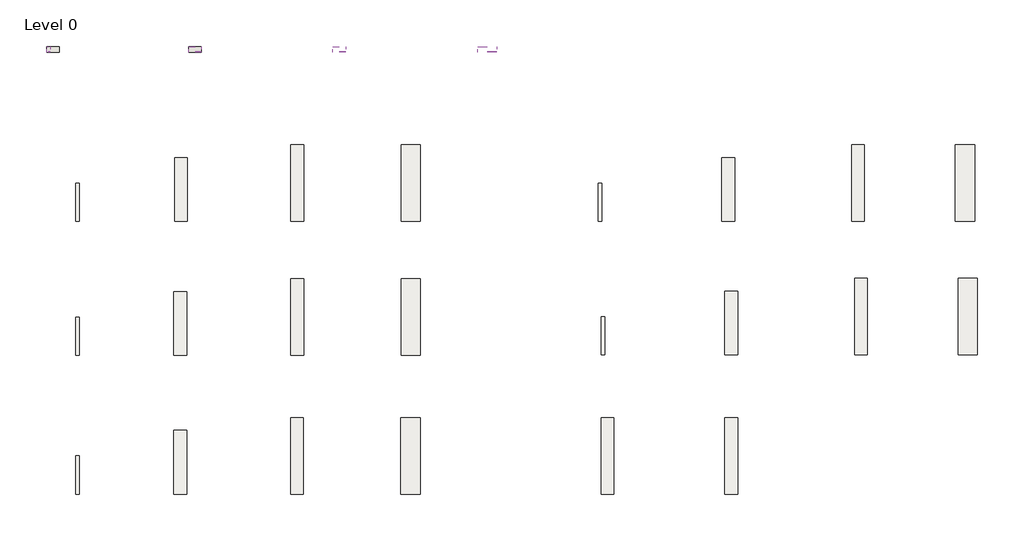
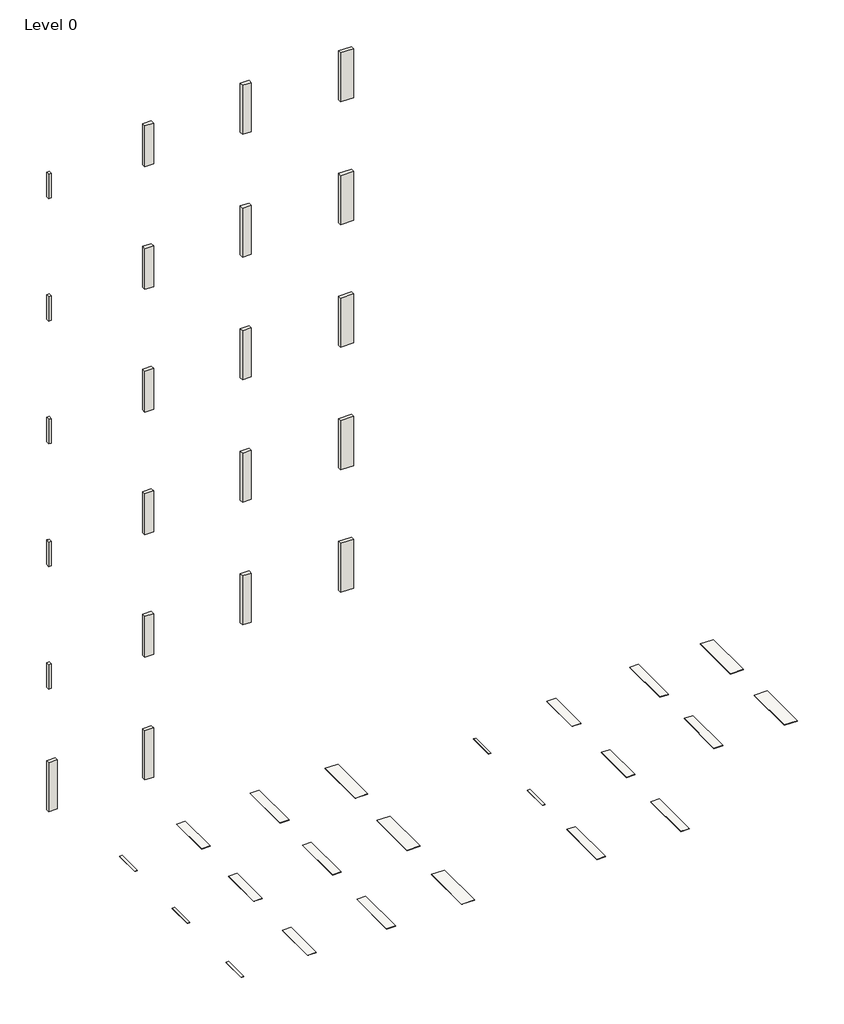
# One storey: 22 slabs, 22 walls.
"""IFC4 building model written with IfcOpenShell, lengths in millimetres."""

import ifcopenshell
import ifcopenshell.guid

model = None  # the IFC model being written
_history = None  # IfcOwnerHistory: only IFC2X3 demands one
_inside = {}  # id of a spatial element -> (the spatial element, [elements in it])
_under = {}  # id of a project, library or spatial element -> (it, [spatial elements below it])
_declared = {}  # id of a project -> (the project, [libraries it declares])
_typed = {}  # id of a type object -> (the type object, [elements of that type])
_made_of = {}  # id of a material, layer set ... -> (it, [elements and type objects made of it])


def new_model(schema):
    """Start an empty IFC model of exactly this schema.

    Asked for "IFC4X3", IfcOpenShell would pick the latest addendum, in which some entities
    have other attributes; the version numbers below select the first issue.
    IFC2X3 requires an IfcOwnerHistory on every rooted entity: one is made here for all.
    """
    global model, _history
    if schema == "IFC4X3":
        model = ifcopenshell.file(schema_version=(4, 3, 0, 0))
    else:
        model = ifcopenshell.file(schema=schema)
    _inside.clear()
    _under.clear()
    _declared.clear()
    _typed.clear()
    _made_of.clear()
    _history = None
    if model.schema == "IFC2X3":
        org = make("IfcOrganization", Name="unknown")
        user = make(
            "IfcPersonAndOrganization",
            ThePerson=make("IfcPerson", FamilyName="unknown"),
            TheOrganization=org,
        )
        app = make(
            "IfcApplication",
            ApplicationDeveloper=org,
            Version="unknown",
            ApplicationFullName="unknown",
            ApplicationIdentifier="unknown",
        )
        _history = make(
            "IfcOwnerHistory",
            OwningUser=user,
            OwningApplication=app,
            ChangeAction="ADDED",
            CreationDate=0,
        )
    return model


def make(cls, **values):
    """One entity of the class cls with the attributes given. An attribute that is None is left unset."""
    return model.create_entity(
        cls, **{name: value for name, value in values.items() if value is not None}
    )


def rooted(cls, **values):
    """An entity with a GlobalId (a new one), such as an element, a storey or a relation."""
    return make(cls, GlobalId=ifcopenshell.guid.new(), OwnerHistory=_history, **values)


def si_unit(unit_type, name, prefix=None):
    """IfcSIUnit, for example si_unit("LENGTHUNIT", "METRE", prefix="MILLI")."""
    return make("IfcSIUnit", UnitType=unit_type, Prefix=prefix, Name=name)


def assignment(units):
    """IfcUnitAssignment: the units of a project."""
    return None if units is None else make("IfcUnitAssignment", Units=units)


def point(xyz):
    """IfcCartesianPoint."""
    return None if xyz is None else make("IfcCartesianPoint", Coordinates=xyz)


def direction(xyz):
    """IfcDirection."""
    return None if xyz is None else make("IfcDirection", DirectionRatios=xyz)


def frame(location, z_axis=None, x_axis=None):
    """IfcAxis2Placement3D, a coordinate frame: its origin and axes. An axis left out is left unset."""
    return make(
        "IfcAxis2Placement3D",
        Location=point(location),
        Axis=direction(z_axis),
        RefDirection=direction(x_axis),
    )


def origin():
    """The frame at (0, 0, 0) with its axes left unset."""
    return frame((0.0, 0.0, 0.0))


def origin_with_axes():
    """The frame at (0, 0, 0) with the z axis (0, 0, 1) and the x axis (1, 0, 0) written out."""
    return frame((0.0, 0.0, 0.0), z_axis=(0.0, 0.0, 1.0), x_axis=(1.0, 0.0, 0.0))


def place(relative_to, where):
    """IfcLocalPlacement: puts the frame where relative to a parent placement (None: the world)."""
    return make(
        "IfcLocalPlacement", PlacementRelTo=relative_to, RelativePlacement=where
    )


def context(
    kind, dimensions, precision=None, world=None, true_north=None, identifier=None
):
    """IfcGeometricRepresentationContext, for example the 3D "Model" context."""
    return make(
        "IfcGeometricRepresentationContext",
        ContextIdentifier=identifier,
        ContextType=kind,
        CoordinateSpaceDimension=dimensions,
        Precision=precision,
        WorldCoordinateSystem=world,
        TrueNorth=true_north,
    )


def project(units=None, contexts=None):
    """IfcProject with its units and contexts."""
    return rooted(
        "IfcProject",
        Name="project",
        RepresentationContexts=contexts,
        UnitsInContext=assignment(units),
    )


def spatial(cls, under=None, at=None, **own):
    """A site, building, storey or space (cls), placed at a placement, below another one or the project."""
    s = rooted(cls, ObjectPlacement=at, **own)
    if under is not None:
        _under.setdefault(under.id(), (under, []))[1].append(s)
    return s


def polyline(points):
    """IfcPolyline through the points."""
    return make("IfcPolyline", Points=[point(p) for p in points])


def outline(outer, holes=None, kind="AREA"):
    """IfcArbitraryClosedProfileDef: a profile drawn as a closed curve; with holes, ...WithVoids."""
    if holes is None:
        return make("IfcArbitraryClosedProfileDef", ProfileType=kind, OuterCurve=outer)
    return make(
        "IfcArbitraryProfileDefWithVoids",
        ProfileType=kind,
        OuterCurve=outer,
        InnerCurves=holes,
    )


def extrude(swept, where, along, depth):
    """IfcExtrudedAreaSolid: the profile swept, set in the frame where, extruded along a direction by depth."""
    return make(
        "IfcExtrudedAreaSolid",
        SweptArea=swept,
        Position=where,
        ExtrudedDirection=direction(along),
        Depth=depth,
    )


def shape(context_of_items, identifier, shape_type, items):
    """IfcShapeRepresentation: the items that make up one representation, for example the "Body"."""
    return make(
        "IfcShapeRepresentation",
        ContextOfItems=context_of_items,
        RepresentationIdentifier=identifier,
        RepresentationType=shape_type,
        Items=items,
    )


def made_of(thing, what):
    """Note that an element or type object is made of a material, layer set ...; save() writes the relation."""
    if what is not None:
        _made_of.setdefault(what.id(), (what, []))[1].append(thing)
    return thing


def element(
    cls,
    number,
    at=None,
    inside=None,
    cuts=None,
    type_object=None,
    material=None,
    context=None,
    identifier="Body",
    shape_type=None,
    held_by="IfcProductDefinitionShape",
    body=None,
    shapes=None,
    **own,
):
    """One element of the class cls, such as IfcWall. Its Tag is "e" and its number.

    at: its placement. inside: the storey or other place that contains it. cuts: it is an
    opening in that element (IfcRelVoidsElement). A single representation is given by context,
    identifier, shape_type and body (its items); several are given by shapes. held_by: the class
    of the entity that holds the representations. save() writes the other relations.
    """
    e = rooted(cls, Tag="e%d" % number, ObjectPlacement=at, **own)
    if body is not None:
        shapes = [shape(context, identifier, shape_type, body)]
    if shapes is not None:
        e.Representation = make(held_by, Representations=shapes)
    if inside is not None:
        _inside.setdefault(inside.id(), (inside, []))[1].append(e)
    if cuts is not None:
        rooted(
            "IfcRelVoidsElement", RelatingBuildingElement=cuts, RelatedOpeningElement=e
        )
    if type_object is not None:
        _typed.setdefault(type_object.id(), (type_object, []))[1].append(e)
    return made_of(e, material)


def aggregate(whole, parts):
    """IfcRelAggregates: a whole, such as a stair, and the parts it consists of."""
    return rooted("IfcRelAggregates", RelatingObject=whole, RelatedObjects=parts)


def save(model, path):
    """Write the relations noted so far, then the file.

    IfcRelAggregates (storeys below a building ...), IfcRelContainedInSpatialStructure (elements
    in a storey), IfcRelDefinesByType, IfcRelAssociatesMaterial and IfcRelDeclares: one each for
    every whole, place, type object, material and project.
    """
    for whole, parts in _under.values():
        aggregate(whole, parts)
    for where, things in _inside.values():
        rooted(
            "IfcRelContainedInSpatialStructure",
            RelatedElements=things,
            RelatingStructure=where,
        )
    for kind, things in _typed.values():
        rooted("IfcRelDefinesByType", RelatedObjects=things, RelatingType=kind)
    for what, things in _made_of.values():
        rooted("IfcRelAssociatesMaterial", RelatedObjects=things, RelatingMaterial=what)
    for by, libraries in _declared.values():
        rooted("IfcRelDeclares", RelatingContext=by, RelatedDefinitions=libraries)
    model.write(path)


model = new_model("IFC4")

# Units and contexts
model_context = context("Model", 3, world=origin())
ifc_project = project(units=[si_unit("LENGTHUNIT", "METRE", prefix="MILLI")], contexts=[model_context])

# Site, building, storey
site = spatial("IfcSite", under=ifc_project)
building = spatial("IfcBuilding", under=site)
storey = spatial("IfcBuildingStorey", under=building, Name="Level 0", Elevation=0.0)

# Slabs
placement = place(None, origin())
element("IfcSlab", 1, ObjectType="Floor_Tiles_Fabula-ROBUR-20X120-Wood-Effect-Tiles-MATT", at=placement, inside=storey, context=model_context, shape_type="SweptSolid", body=[
    extrude(outline(polyline([(9947.1861419, 6639.4623743), (9947.1861419, 5439.4623743), (9747.1861419, 5439.4623743), (9747.1861419, 6639.4623743), (9947.1861419, 6639.4623743)])), frame((0.0, 0.0, -10.0), z_axis=(0.0, 0.0, 1.0), x_axis=(1.0, 0.0, 0.0)), (0.0, 0.0, 1.0), 10.0),
])
element("IfcSlab", 2, ObjectType="Floor_Tiles_Fabula-ROBUR-30X120-Wood-Effect-Tiles-MATT", at=placement, inside=storey, context=model_context, shape_type="SweptSolid", body=[
    extrude(outline(polyline([(11774.3752062, 6639.4623743), (11774.3752062, 5439.4623743), (11474.3752062, 5439.4623743), (11474.3752062, 6639.4623743), (11774.3752062, 6639.4623743)])), frame((0.0, 0.0, -10.0), z_axis=(0.0, 0.0, 1.0), x_axis=(1.0, 0.0, 0.0)), (0.0, 0.0, 1.0), 10.0),
])
element("IfcSlab", 3, ObjectType="Floor_Tiles_Fabula-ROBUR-20X100-CHEVRON-WOOD-EFFECT-TILE", at=placement, inside=storey, context=model_context, shape_type="SweptSolid", body=[
    extrude(outline(polyline([(8124.3752062, 6439.4623743), (8124.3752062, 5439.4623743), (7924.3752062, 5439.4623743), (7924.3752062, 6439.4623743), (8124.3752062, 6439.4623743)])), frame((0.0, 0.0, -10.0), z_axis=(0.0, 0.0, 1.0), x_axis=(1.0, 0.0, 0.0)), (0.0, 0.0, 1.0), 10.0),
])
element("IfcSlab", 4, ObjectType="Floor_Tiles_Fabula-ROBUR-5.7X60-Wood-Effect-listels-MATT", at=placement, inside=storey, context=model_context, shape_type="SweptSolid", body=[
    extrude(outline(polyline([(6431.3752062, 6039.4623743), (6431.3752062, 5439.4623743), (6374.3752062, 5439.4623743), (6374.3752062, 6039.4623743), (6431.3752062, 6039.4623743)])), frame((0.0, 0.0, -10.0), z_axis=(0.0, 0.0, 1.0), x_axis=(1.0, 0.0, 0.0)), (0.0, 0.0, 1.0), 10.0),
])
element("IfcSlab", 5, ObjectType="Floor_Tiles_Fabula-NUCIS-20X120-Wood-Effect-Tiles-MATT", at=placement, inside=storey, context=model_context, shape_type="SweptSolid", body=[
    extrude(outline(polyline([(9947.1861419, 4539.4623743), (9947.1861419, 3339.4623743), (9747.1861419, 3339.4623743), (9747.1861419, 4539.4623743), (9947.1861419, 4539.4623743)])), frame((0.0, 0.0, -10.0), z_axis=(0.0, 0.0, 1.0), x_axis=(1.0, 0.0, 0.0)), (0.0, 0.0, 1.0), 10.0),
])
element("IfcSlab", 6, ObjectType="Floor_Tiles_Fabula-NUCIS-30X120-Wood-Effect-Tiles-MATT", at=placement, inside=storey, context=model_context, shape_type="SweptSolid", body=[
    extrude(outline(polyline([(11774.3752062, 4539.4623743), (11774.3752062, 3339.4623743), (11474.3752062, 3339.4623743), (11474.3752062, 4539.4623743), (11774.3752062, 4539.4623743)])), frame((0.0, 0.0, -10.0), z_axis=(0.0, 0.0, 1.0), x_axis=(1.0, 0.0, 0.0)), (0.0, 0.0, 1.0), 10.0),
])
element("IfcSlab", 7, ObjectType="Floor_Tiles_Fabula-NUCIS-20X100-CHEVRON-WOOD-EFFECT-TILE", at=placement, inside=storey, context=model_context, shape_type="SweptSolid", body=[
    extrude(outline(polyline([(8114.3752062, 4339.4623743), (8114.3752062, 3339.4623743), (7914.3752062, 3339.4623743), (7914.3752062, 4339.4623743), (8114.3752062, 4339.4623743)])), frame((0.0, 0.0, -10.0), z_axis=(0.0, 0.0, 1.0), x_axis=(1.0, 0.0, 0.0)), (0.0, 0.0, 1.0), 10.0),
])
element("IfcSlab", 8, ObjectType="Floor_Tiles_Fabula-NUCIS-5.7X60-Wood-Effect-listels-MATT", at=placement, inside=storey, context=model_context, shape_type="SweptSolid", body=[
    extrude(outline(polyline([(6431.3752062, 3939.4623743), (6431.3752062, 3339.4623743), (6374.3752062, 3339.4623743), (6374.3752062, 3939.4623743), (6431.3752062, 3939.4623743)])), frame((0.0, 0.0, -10.0), z_axis=(0.0, 0.0, 1.0), x_axis=(1.0, 0.0, 0.0)), (0.0, 0.0, 1.0), 10.0),
])
element("IfcSlab", 9, ObjectType="Floor_Tiles_Fabula-FABALIS-20X120-Wood-Effect-Tiles-MATT", at=placement, inside=storey, context=model_context, shape_type="SweptSolid", body=[
    extrude(outline(polyline([(18738.6786085, 6639.4623743), (18738.6786085, 5439.4623743), (18538.6786085, 5439.4623743), (18538.6786085, 6639.4623743), (18738.6786085, 6639.4623743)])), frame((0.0, 0.0, -10.0), z_axis=(0.0, 0.0, 1.0), x_axis=(1.0, 0.0, 0.0)), (0.0, 0.0, 1.0), 10.0),
])
element("IfcSlab", 10, ObjectType="Floor_Tiles_Fabula-FABALIS-30X120-Wood-Effect-Tiles-MATT", at=placement, inside=storey, context=model_context, shape_type="SweptSolid", body=[
    extrude(outline(polyline([(20465.8676728, 6639.4623743), (20465.8676728, 5439.4623743), (20165.8676728, 5439.4623743), (20165.8676728, 6639.4623743), (20465.8676728, 6639.4623743)])), frame((0.0, 0.0, -10.0), z_axis=(0.0, 0.0, 1.0), x_axis=(1.0, 0.0, 0.0)), (0.0, 0.0, 1.0), 10.0),
])
element("IfcSlab", 11, ObjectType="Floor_Tiles_Fabula-FABALIS-20X100-CHEVRON-WOOD-EFFECT-TILE", at=placement, inside=storey, context=model_context, shape_type="SweptSolid", body=[
    extrude(outline(polyline([(16705.8676728, 6439.4623743), (16705.8676728, 5439.4623743), (16505.8676728, 5439.4623743), (16505.8676728, 6439.4623743), (16705.8676728, 6439.4623743)])), frame((0.0, 0.0, -10.0), z_axis=(0.0, 0.0, 1.0), x_axis=(1.0, 0.0, 0.0)), (0.0, 0.0, 1.0), 10.0),
])
element("IfcSlab", 12, ObjectType="Floor_Tiles_Fabula-FABALIS-5.7X60-Wood-Effect-listels-MATT", at=placement, inside=storey, context=model_context, shape_type="SweptSolid", body=[
    extrude(outline(polyline([(14622.8676728, 6039.4623743), (14622.8676728, 5439.4623743), (14565.8676728, 5439.4623743), (14565.8676728, 6039.4623743), (14622.8676728, 6039.4623743)])), frame((0.0, 0.0, -10.0), z_axis=(0.0, 0.0, 1.0), x_axis=(1.0, 0.0, 0.0)), (0.0, 0.0, 1.0), 10.0),
])
element("IfcSlab", 13, ObjectType="Floor_Tiles_Fabula-THECA-20X120-Wood-Effect-Tiles-MATT", at=placement, inside=storey, context=model_context, shape_type="SweptSolid", body=[
    extrude(outline(polyline([(18784.3313073, 4546.5647772), (18784.3313073, 3346.5647772), (18584.3313073, 3346.5647772), (18584.3313073, 4546.5647772), (18784.3313073, 4546.5647772)])), frame((0.0, 0.0, -10.0), z_axis=(0.0, 0.0, 1.0), x_axis=(1.0, 0.0, 0.0)), (0.0, 0.0, 1.0), 10.0),
])
element("IfcSlab", 14, ObjectType="Floor_Tiles_Fabula-THECA-30X120-Wood-Effect-Tiles-MATT", at=placement, inside=storey, context=model_context, shape_type="SweptSolid", body=[
    extrude(outline(polyline([(20511.5203716, 4546.5647772), (20511.5203716, 3346.5647772), (20211.5203716, 3346.5647772), (20211.5203716, 4546.5647772), (20511.5203716, 4546.5647772)])), frame((0.0, 0.0, -10.0), z_axis=(0.0, 0.0, 1.0), x_axis=(1.0, 0.0, 0.0)), (0.0, 0.0, 1.0), 10.0),
])
element("IfcSlab", 15, ObjectType="Floor_Tiles_Fabula-THECA-20X100-CHEVRON-WOOD-EFFECT-TILE", at=placement, inside=storey, context=model_context, shape_type="SweptSolid", body=[
    extrude(outline(polyline([(16751.5203716, 4346.5647772), (16751.5203716, 3346.5647772), (16551.5203716, 3346.5647772), (16551.5203716, 4346.5647772), (16751.5203716, 4346.5647772)])), frame((0.0, 0.0, -10.0), z_axis=(0.0, 0.0, 1.0), x_axis=(1.0, 0.0, 0.0)), (0.0, 0.0, 1.0), 10.0),
])
element("IfcSlab", 16, ObjectType="Floor_Tiles_Fabula-THECA-5.7X60-Wood-Effect-listels-MATT", at=placement, inside=storey, context=model_context, shape_type="SweptSolid", body=[
    extrude(outline(polyline([(14668.5203716, 3946.5647772), (14668.5203716, 3346.5647772), (14611.5203716, 3346.5647772), (14611.5203716, 3946.5647772), (14668.5203716, 3946.5647772)])), frame((0.0, 0.0, -10.0), z_axis=(0.0, 0.0, 1.0), x_axis=(1.0, 0.0, 0.0)), (0.0, 0.0, 1.0), 10.0),
])
element("IfcSlab", 17, ObjectType="Floor_Tiles_Fabula-ULMUS-20X120-Wood-Effect-Tiles-MATT", at=placement, inside=storey, context=model_context, shape_type="SweptSolid", body=[
    extrude(outline(polyline([(9945.4118688, 2363.4367235), (9945.4118688, 1163.4367235), (9745.4118688, 1163.4367235), (9745.4118688, 2363.4367235), (9945.4118688, 2363.4367235)])), frame((0.0, 0.0, -10.0), z_axis=(0.0, 0.0, 1.0), x_axis=(1.0, 0.0, 0.0)), (0.0, 0.0, 1.0), 10.0),
])
element("IfcSlab", 18, ObjectType="Floor_Tiles_Fabula-ULMUS-30X120-Wood-Effect-Tiles-MATT", at=placement, inside=storey, context=model_context, shape_type="SweptSolid", body=[
    extrude(outline(polyline([(11772.6009331, 2363.4367235), (11772.6009331, 1163.4367235), (11472.6009331, 1163.4367235), (11472.6009331, 2363.4367235), (11772.6009331, 2363.4367235)])), frame((0.0, 0.0, -10.0), z_axis=(0.0, 0.0, 1.0), x_axis=(1.0, 0.0, 0.0)), (0.0, 0.0, 1.0), 10.0),
])
element("IfcSlab", 19, ObjectType="Floor_Tiles_Fabula-ULMUS-20X100-CHEVRON-WOOD-EFFECT-TILE", at=placement, inside=storey, context=model_context, shape_type="SweptSolid", body=[
    extrude(outline(polyline([(8112.6009331, 2163.4367235), (8112.6009331, 1163.4367235), (7912.6009331, 1163.4367235), (7912.6009331, 2163.4367235), (8112.6009331, 2163.4367235)])), frame((0.0, 0.0, -10.0), z_axis=(0.0, 0.0, 1.0), x_axis=(1.0, 0.0, 0.0)), (0.0, 0.0, 1.0), 10.0),
])
element("IfcSlab", 20, ObjectType="Floor_Tiles_Fabula-ULMUS-5.7X60-Wood-Effect-listels-MATT", at=placement, inside=storey, context=model_context, shape_type="SweptSolid", body=[
    extrude(outline(polyline([(6429.6009331, 1763.4367235), (6429.6009331, 1163.4367235), (6372.6009331, 1163.4367235), (6372.6009331, 1763.4367235), (6429.6009331, 1763.4367235)])), frame((0.0, 0.0, -10.0), z_axis=(0.0, 0.0, 1.0), x_axis=(1.0, 0.0, 0.0)), (0.0, 0.0, 1.0), 10.0),
])
element("IfcSlab", 21, ObjectType="Floor_Tiles_Fabula-Forest-20X120-Wood-Effect-decorative-Tiles-MATT", at=placement, inside=storey, context=model_context, shape_type="SweptSolid", body=[
    extrude(outline(polyline([(14811.5203716, 2363.4367235), (14811.5203716, 1163.4367235), (14611.5203716, 1163.4367235), (14611.5203716, 2363.4367235), (14811.5203716, 2363.4367235)])), frame((0.0, 0.0, -10.0), z_axis=(0.0, 0.0, 1.0), x_axis=(1.0, 0.0, 0.0)), (0.0, 0.0, 1.0), 10.0),
])
element("IfcSlab", 22, ObjectType="Floor_Tiles_Fabula-Jungle-20X120-Wood-Effect-decorative-Tiles-MATT", at=placement, inside=storey, context=model_context, shape_type="SweptSolid", body=[
    extrude(outline(polyline([(16751.5203716, 2363.4367235), (16751.5203716, 1163.4367235), (16551.5203716, 1163.4367235), (16551.5203716, 2363.4367235), (16751.5203716, 2363.4367235)])), frame((0.0, 0.0, -10.0), z_axis=(0.0, 0.0, 1.0), x_axis=(1.0, 0.0, 0.0)), (0.0, 0.0, 1.0), 10.0),
])

# Walls
element("IfcWall", 23, ObjectType="Wall_Tiles_Fabula-ROBUR-5.7X60-Wood-Effect-listels-MATT", at=placement, inside=storey, context=model_context, shape_type="SweptSolid", body=[
    extrude(outline(polyline([(5974.3752062, 8095.3838631), (5917.3752062, 8095.3838631), (5917.3752062, 8179.3838631), (5974.3752062, 8179.3838631), (5974.3752062, 8095.3838631)])), frame((0.0, 0.0, 15000.0), z_axis=(0.0, 0.0, 1.0), x_axis=(1.0, 0.0, 0.0)), (0.0, 0.0, 1.0), 600.0),
])
element("IfcWall", 24, ObjectType="Wall_Tiles_Fabula-ROBUR-20X100-CHEVRON-WOOD-EFFECT-TILE", at=placement, inside=storey, context=model_context, shape_type="SweptSolid", body=[
    extrude(outline(polyline([(8345.8752062, 8095.3838631), (8145.8752062, 8095.3838631), (8145.8752062, 8179.3838631), (8345.8752062, 8179.3838631), (8345.8752062, 8095.3838631)])), frame((0.0, 0.0, 15000.0), z_axis=(0.0, 0.0, 1.0), x_axis=(1.0, 0.0, 0.0)), (0.0, 0.0, 1.0), 1000.0),
])
element("IfcWall", 25, ObjectType="Wall_Tiles_Fabula-ROBUR-20X120-Wood-Effect-Tiles-MATT", at=placement, inside=storey, context=model_context, shape_type="SweptSolid", body=[
    extrude(outline(polyline([(10605.8752062, 8095.3838631), (10405.8752062, 8095.3838631), (10405.8752062, 8179.3838631), (10605.8752062, 8179.3838631), (10605.8752062, 8095.3838631)])), frame((0.0, 0.0, 15000.0), z_axis=(0.0, 0.0, 1.0), x_axis=(1.0, 0.0, 0.0)), (0.0, 0.0, 1.0), 1200.0),
])
element("IfcWall", 26, ObjectType="Wall_Tiles_Fabula-ROBUR-30X120-Wood-Effect-Tiles-MATT", at=placement, inside=storey, context=model_context, shape_type="SweptSolid", body=[
    extrude(outline(polyline([(12975.8752062, 8095.3838631), (12675.8752062, 8095.3838631), (12675.8752062, 8179.3838631), (12975.8752062, 8179.3838631), (12975.8752062, 8095.3838631)])), frame((0.0, 0.0, 15000.0), z_axis=(0.0, 0.0, 1.0), x_axis=(1.0, 0.0, 0.0)), (0.0, 0.0, 1.0), 1200.0),
])
element("IfcWall", 27, ObjectType="Wall_Tiles_Fabula-NUCIS-5.7X60-Wood-Effect-listels-MATT", at=placement, inside=storey, context=model_context, shape_type="SweptSolid", body=[
    extrude(outline(polyline([(5974.3752062, 8095.3838631), (5917.3752062, 8095.3838631), (5917.3752062, 8179.3838631), (5974.3752062, 8179.3838631), (5974.3752062, 8095.3838631)])), frame((0.0, 0.0, 12000.0), z_axis=(0.0, 0.0, 1.0), x_axis=(1.0, 0.0, 0.0)), (0.0, 0.0, 1.0), 600.0),
])
element("IfcWall", 28, ObjectType="Wall_Tiles_Fabula-NUCIS-20X100-CHEVRON-WOOD-EFFECT-TILE", at=placement, inside=storey, context=model_context, shape_type="SweptSolid", body=[
    extrude(outline(polyline([(8345.8752062, 8095.3838631), (8145.8752062, 8095.3838631), (8145.8752062, 8179.3838631), (8345.8752062, 8179.3838631), (8345.8752062, 8095.3838631)])), frame((0.0, 0.0, 12000.0), z_axis=(0.0, 0.0, 1.0), x_axis=(1.0, 0.0, 0.0)), (0.0, 0.0, 1.0), 1000.0),
])
element("IfcWall", 29, ObjectType="Wall_Tiles_Fabula-NUCIS-20X120-Wood-Effect-Tiles-MATT", at=placement, inside=storey, context=model_context, shape_type="SweptSolid", body=[
    extrude(outline(polyline([(10605.8752062, 8095.3838631), (10405.8752062, 8095.3838631), (10405.8752062, 8179.3838631), (10605.8752062, 8179.3838631), (10605.8752062, 8095.3838631)])), frame((0.0, 0.0, 12000.0), z_axis=(0.0, 0.0, 1.0), x_axis=(1.0, 0.0, 0.0)), (0.0, 0.0, 1.0), 1200.0),
])
element("IfcWall", 30, ObjectType="Wall_Tiles_Fabula-NUCIS-30X120-Wood-Effect-Tiles-MATT", at=placement, inside=storey, context=model_context, shape_type="SweptSolid", body=[
    extrude(outline(polyline([(12975.8752062, 8095.3838631), (12675.8752062, 8095.3838631), (12675.8752062, 8179.3838631), (12975.8752062, 8179.3838631), (12975.8752062, 8095.3838631)])), frame((0.0, 0.0, 12000.0), z_axis=(0.0, 0.0, 1.0), x_axis=(1.0, 0.0, 0.0)), (0.0, 0.0, 1.0), 1200.0),
])
element("IfcWall", 31, ObjectType="Wall_Tiles_Fabula-FABALIS-5.7X60-Wood-Effect-listels-MATT", at=placement, inside=storey, context=model_context, shape_type="SweptSolid", body=[
    extrude(outline(polyline([(5974.3752062, 8095.3838631), (5917.3752062, 8095.3838631), (5917.3752062, 8179.3838631), (5974.3752062, 8179.3838631), (5974.3752062, 8095.3838631)])), frame((0.0, 0.0, 9000.0), z_axis=(0.0, 0.0, 1.0), x_axis=(1.0, 0.0, 0.0)), (0.0, 0.0, 1.0), 600.0),
])
element("IfcWall", 32, ObjectType="Wall_Tiles_Fabula-FABALIS-20X100-CHEVRON-WOOD-EFFECT-TILE", at=placement, inside=storey, context=model_context, shape_type="SweptSolid", body=[
    extrude(outline(polyline([(8345.8752062, 8095.3838631), (8145.8752062, 8095.3838631), (8145.8752062, 8179.3838631), (8345.8752062, 8179.3838631), (8345.8752062, 8095.3838631)])), frame((0.0, 0.0, 9000.0), z_axis=(0.0, 0.0, 1.0), x_axis=(1.0, 0.0, 0.0)), (0.0, 0.0, 1.0), 1000.0),
])
element("IfcWall", 33, ObjectType="Wall_Tiles_Fabula-FABALIS-20X120-Wood-Effect-Tiles-MATT", at=placement, inside=storey, context=model_context, shape_type="SweptSolid", body=[
    extrude(outline(polyline([(10605.8752062, 8095.3838631), (10405.8752062, 8095.3838631), (10405.8752062, 8179.3838631), (10605.8752062, 8179.3838631), (10605.8752062, 8095.3838631)])), frame((0.0, 0.0, 9000.0), z_axis=(0.0, 0.0, 1.0), x_axis=(1.0, 0.0, 0.0)), (0.0, 0.0, 1.0), 1200.0),
])
element("IfcWall", 34, ObjectType="Wall_Tiles_Fabula-FABALIS-30X120-Wood-Effect-Tiles-MATT", at=placement, inside=storey, context=model_context, shape_type="SweptSolid", body=[
    extrude(outline(polyline([(12975.8752062, 8095.3838631), (12675.8752062, 8095.3838631), (12675.8752062, 8179.3838631), (12975.8752062, 8179.3838631), (12975.8752062, 8095.3838631)])), frame((0.0, 0.0, 9000.0), z_axis=(0.0, 0.0, 1.0), x_axis=(1.0, 0.0, 0.0)), (0.0, 0.0, 1.0), 1200.0),
])
element("IfcWall", 35, ObjectType="Wall_Tiles_Fabula-THECA-5.7X60-Wood-Effect-listels-MATT", at=placement, inside=storey, context=model_context, shape_type="SweptSolid", body=[
    extrude(outline(polyline([(5974.3752062, 8095.3838631), (5917.3752062, 8095.3838631), (5917.3752062, 8179.3838631), (5974.3752062, 8179.3838631), (5974.3752062, 8095.3838631)])), frame((0.0, 0.0, 6000.0), z_axis=(0.0, 0.0, 1.0), x_axis=(1.0, 0.0, 0.0)), (0.0, 0.0, 1.0), 600.0),
])
element("IfcWall", 36, ObjectType="Wall_Tiles_Fabula-THECA-20X100-CHEVRON-WOOD-EFFECT-TILE", at=placement, inside=storey, context=model_context, shape_type="SweptSolid", body=[
    extrude(outline(polyline([(8345.8752062, 8095.3838631), (8145.8752062, 8095.3838631), (8145.8752062, 8179.3838631), (8345.8752062, 8179.3838631), (8345.8752062, 8095.3838631)])), frame((0.0, 0.0, 6000.0), z_axis=(0.0, 0.0, 1.0), x_axis=(1.0, 0.0, 0.0)), (0.0, 0.0, 1.0), 1000.0),
])
element("IfcWall", 37, ObjectType="Wall_Tiles_Fabula-THECA-20X120-Wood-Effect-Tiles-MATT", at=placement, inside=storey, context=model_context, shape_type="SweptSolid", body=[
    extrude(outline(polyline([(10605.8752062, 8095.3838631), (10405.8752062, 8095.3838631), (10405.8752062, 8179.3838631), (10605.8752062, 8179.3838631), (10605.8752062, 8095.3838631)])), frame((0.0, 0.0, 6000.0), z_axis=(0.0, 0.0, 1.0), x_axis=(1.0, 0.0, 0.0)), (0.0, 0.0, 1.0), 1200.0),
])
element("IfcWall", 38, ObjectType="Wall_Tiles_Fabula-THECA-30X120-Wood-Effect-Tiles-MATT", at=placement, inside=storey, context=model_context, shape_type="SweptSolid", body=[
    extrude(outline(polyline([(12975.8752062, 8095.3838631), (12675.8752062, 8095.3838631), (12675.8752062, 8179.3838631), (12975.8752062, 8179.3838631), (12975.8752062, 8095.3838631)])), frame((0.0, 0.0, 6000.0), z_axis=(0.0, 0.0, 1.0), x_axis=(1.0, 0.0, 0.0)), (0.0, 0.0, 1.0), 1200.0),
])
element("IfcWall", 39, ObjectType="Wall_Tiles_Fabula-ULMUS-5.7X60-Wood-Effect-listels-MATT", at=placement, inside=storey, context=model_context, shape_type="SweptSolid", body=[
    extrude(outline(polyline([(5974.3752062, 8095.3838631), (5917.3752062, 8095.3838631), (5917.3752062, 8179.3838631), (5974.3752062, 8179.3838631), (5974.3752062, 8095.3838631)])), frame((0.0, 0.0, 3000.0), z_axis=(0.0, 0.0, 1.0), x_axis=(1.0, 0.0, 0.0)), (0.0, 0.0, 1.0), 600.0),
])
element("IfcWall", 40, ObjectType="Wall_Tiles_Fabula-ULMUS-20X100-CHEVRON-WOOD-EFFECT-TILE", at=placement, inside=storey, context=model_context, shape_type="SweptSolid", body=[
    extrude(outline(polyline([(8345.8752062, 8095.3838631), (8145.8752062, 8095.3838631), (8145.8752062, 8179.3838631), (8345.8752062, 8179.3838631), (8345.8752062, 8095.3838631)])), frame((0.0, 0.0, 3000.0), z_axis=(0.0, 0.0, 1.0), x_axis=(1.0, 0.0, 0.0)), (0.0, 0.0, 1.0), 1000.0),
])
element("IfcWall", 41, ObjectType="Wall_Tiles_Fabula-ULMUS-20X120-Wood-Effect-Tiles-MATT", at=placement, inside=storey, context=model_context, shape_type="SweptSolid", body=[
    extrude(outline(polyline([(10605.8752062, 8095.3838631), (10405.8752062, 8095.3838631), (10405.8752062, 8179.3838631), (10605.8752062, 8179.3838631), (10605.8752062, 8095.3838631)])), frame((0.0, 0.0, 3000.0), z_axis=(0.0, 0.0, 1.0), x_axis=(1.0, 0.0, 0.0)), (0.0, 0.0, 1.0), 1200.0),
])
element("IfcWall", 42, ObjectType="Wall_Tiles_Fabula-ULMUS-30X120-Wood-Effect-Tiles-MATT", at=placement, inside=storey, context=model_context, shape_type="SweptSolid", body=[
    extrude(outline(polyline([(12975.8752062, 8095.3838631), (12675.8752062, 8095.3838631), (12675.8752062, 8179.3838631), (12975.8752062, 8179.3838631), (12975.8752062, 8095.3838631)])), frame((0.0, 0.0, 3000.0), z_axis=(0.0, 0.0, 1.0), x_axis=(1.0, 0.0, 0.0)), (0.0, 0.0, 1.0), 1200.0),
])
element("IfcWall", 43, ObjectType="Wall_Tiles_Fabula-Forest-20X120-Wood-Effect-decorative-Tiles-MATT", at=placement, inside=storey, context=model_context, shape_type="SweptSolid", body=[
    extrude(outline(polyline([(6117.3752062, 8095.3838631), (5917.3752062, 8095.3838631), (5917.3752062, 8179.3838631), (6117.3752062, 8179.3838631), (6117.3752062, 8095.3838631)])), origin_with_axes(), (0.0, 0.0, 1.0), 1200.0),
])
element("IfcWall", 44, ObjectType="Wall_Tiles_Fabula-Jungle-20X120-Wood-Effect-decorative-Tiles-MATT", at=placement, inside=storey, context=model_context, shape_type="SweptSolid", body=[
    extrude(outline(polyline([(8345.8752062, 8095.3838631), (8145.8752062, 8095.3838631), (8145.8752062, 8179.3838631), (8345.8752062, 8179.3838631), (8345.8752062, 8095.3838631)])), origin_with_axes(), (0.0, 0.0, 1.0), 1200.0),
])

save(model, "model.ifc")
